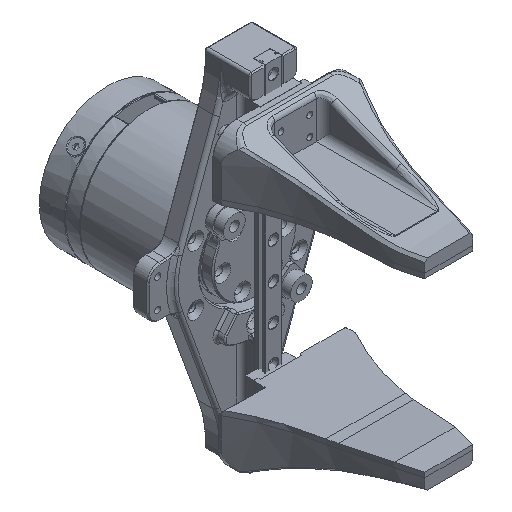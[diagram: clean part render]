
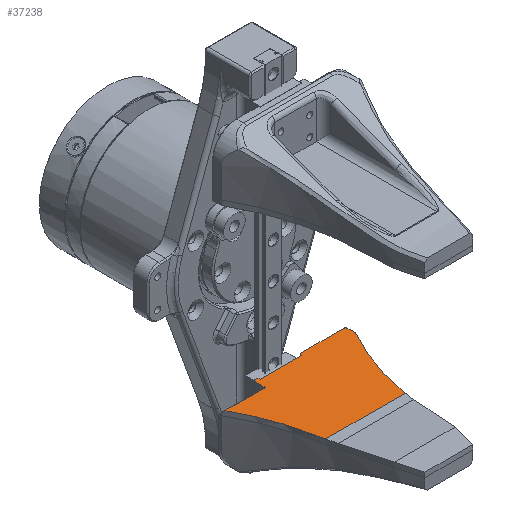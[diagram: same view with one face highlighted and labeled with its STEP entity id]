
A CAD part, isometric view. The second image highlights one B-rep face of the part: STEP entity #37238.
In plain terms, the highlighted planar face has unit normal (0, 0, 1) as drawn and (-1, 0, 0) by its records, which use the part's own axes.
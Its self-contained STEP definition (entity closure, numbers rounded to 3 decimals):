
#183 = CARTESIAN_POINT ( 'NONE',  ( -2., -9.15, 71. ) ) ;
#273 = LINE ( 'NONE', #34540, #21472 ) ;
#1364 = ORIENTED_EDGE ( 'NONE', *, *, #4253, .T. ) ;
#1388 = CARTESIAN_POINT ( 'NONE',  ( -2., 23.154, 57.32 ) ) ;
#1880 = VECTOR ( 'NONE', #13972, 1000. ) ;
#2148 = DIRECTION ( 'NONE',  ( 0., 0., 1. ) ) ;
#2785 = EDGE_CURVE ( 'NONE', #11156, #4643, #20518, .T. ) ;
#3078 = CARTESIAN_POINT ( 'NONE',  ( -2., -28., 34.718 ) ) ;
#3775 = EDGE_CURVE ( 'NONE', #12439, #9580, #21705, .T. ) ;
#3892 = CARTESIAN_POINT ( 'NONE',  ( -2., 18.881, 45.571 ) ) ;
#4253 = EDGE_CURVE ( 'NONE', #20118, #8627, #14377, .T. ) ;
#4412 = EDGE_CURVE ( 'NONE', #9580, #28087, #30825, .T. ) ;
#4533 = EDGE_CURVE ( 'NONE', #11377, #22294, #273, .T. ) ;
#4604 = DIRECTION ( 'NONE',  ( 0., 0., -1. ) ) ;
#4643 = VERTEX_POINT ( 'NONE', #37826 ) ;
#5258 = DIRECTION ( 'NONE',  ( 0., 0., -1. ) ) ;
#5429 = LINE ( 'NONE', #24242, #28455 ) ;
#5797 = LINE ( 'NONE', #31346, #6864 ) ;
#6681 = CARTESIAN_POINT ( 'NONE',  ( -2., -28., 66. ) ) ;
#6864 = VECTOR ( 'NONE', #18413, 1000. ) ;
#7486 = VECTOR ( 'NONE', #26068, 1000. ) ;
#7854 = ORIENTED_EDGE ( 'NONE', *, *, #16024, .T. ) ;
#8210 = VECTOR ( 'NONE', #33629, 1000. ) ;
#8560 = CARTESIAN_POINT ( 'NONE',  ( -2., 10.65, 71. ) ) ;
#8627 = VERTEX_POINT ( 'NONE', #11533 ) ;
#9161 = ORIENTED_EDGE ( 'NONE', *, *, #23197, .F. ) ;
#9580 = VERTEX_POINT ( 'NONE', #29975 ) ;
#10041 = CARTESIAN_POINT ( 'NONE',  ( -2., -9.15, 71. ) ) ;
#10168 = CARTESIAN_POINT ( 'NONE',  ( -2., 8.65, 34.718 ) ) ;
#11156 = VERTEX_POINT ( 'NONE', #12879 ) ;
#11175 = EDGE_LOOP ( 'NONE', ( #9161, #38297, #16143, #32000, #16943, #30136, #21953, #7854, #40336, #38020, #20771, #33390, #1364, #35215, #15149 ) ) ;
#11247 = DIRECTION ( 'NONE',  ( 0., 1., 0. ) ) ;
#11377 = VERTEX_POINT ( 'NONE', #31751 ) ;
#11426 = EDGE_CURVE ( 'NONE', #22277, #21422, #5797, .T. ) ;
#11533 = CARTESIAN_POINT ( 'NONE',  ( -2., 8.65, 70. ) ) ;
#11563 = CARTESIAN_POINT ( 'NONE',  ( -2., 9.216, 71.934 ) ) ;
#12359 = VERTEX_POINT ( 'NONE', #21043 ) ;
#12410 = CARTESIAN_POINT ( 'NONE',  ( -2., -16.557, 34.718 ) ) ;
#12439 = VERTEX_POINT ( 'NONE', #24335 ) ;
#12607 = CARTESIAN_POINT ( 'NONE',  ( -2., -8.65, 70. ) ) ;
#12879 = CARTESIAN_POINT ( 'NONE',  ( -2., 16.557, 34.718 ) ) ;
#13101 = DIRECTION ( 'NONE',  ( 0., -0.707, -0.707 ) ) ;
#13972 = DIRECTION ( 'NONE',  ( 0., 1., 0. ) ) ;
#14024 = CARTESIAN_POINT ( 'NONE',  ( -2., 21.61, 53.46 ) ) ;
#14377 = LINE ( 'NONE', #23875, #20144 ) ;
#14445 = AXIS2_PLACEMENT_3D ( 'NONE', #3078, #37737, #34646 ) ;
#14497 = CARTESIAN_POINT ( 'NONE',  ( -2., 8.65, 70.5 ) ) ;
#14768 = LINE ( 'NONE', #27536, #34701 ) ;
#15149 = ORIENTED_EDGE ( 'NONE', *, *, #11426, .T. ) ;
#15473 = VERTEX_POINT ( 'NONE', #38852 ) ;
#15783 = LINE ( 'NONE', #10168, #7486 ) ;
#16024 = EDGE_CURVE ( 'NONE', #15473, #22294, #40305, .T. ) ;
#16143 = ORIENTED_EDGE ( 'NONE', *, *, #4412, .T. ) ;
#16509 = CARTESIAN_POINT ( 'NONE',  ( -2., 26.078, 63.584 ) ) ;
#16661 = EDGE_CURVE ( 'NONE', #20154, #15473, #27537, .T. ) ;
#16943 = ORIENTED_EDGE ( 'NONE', *, *, #2785, .F. ) ;
#18413 = DIRECTION ( 'NONE',  ( 0., 0.707, 0.707 ) ) ;
#18540 = VECTOR ( 'NONE', #28803, 1000. ) ;
#19301 = DIRECTION ( 'NONE',  ( 0., 1., 0. ) ) ;
#19364 = EDGE_CURVE ( 'NONE', #20154, #11156, #31524, .T. ) ;
#20118 = VERTEX_POINT ( 'NONE', #12607 ) ;
#20144 = VECTOR ( 'NONE', #11247, 1000. ) ;
#20154 = VERTEX_POINT ( 'NONE', #12410 ) ;
#20518 = B_SPLINE_CURVE_WITH_KNOTS ( 'NONE', 3,
 ( #22917, #28847, #3892, #35455, #14024, #25781, #1388, #23121, #16509, #32362 ),
 .UNSPECIFIED., .F., .F.,
 ( 4, 2, 2, 2, 4 ),
 ( 0.071, 0.088, 0.092, 0.096, 0.105 ),
 .UNSPECIFIED. ) ;
#20771 = ORIENTED_EDGE ( 'NONE', *, *, #21467, .F. ) ;
#21043 = CARTESIAN_POINT ( 'NONE',  ( -2., -8.65, 70.5 ) ) ;
#21244 = CARTESIAN_POINT ( 'NONE',  ( -2., -22.74, 56.752 ) ) ;
#21422 = VERTEX_POINT ( 'NONE', #31900 ) ;
#21467 = EDGE_CURVE ( 'NONE', #12359, #37228, #32112, .T. ) ;
#21472 = VECTOR ( 'NONE', #13101, 1000. ) ;
#21705 = LINE ( 'NONE', #11563, #8210 ) ;
#21953 = ORIENTED_EDGE ( 'NONE', *, *, #16661, .T. ) ;
#22277 = VERTEX_POINT ( 'NONE', #14497 ) ;
#22294 = VERTEX_POINT ( 'NONE', #36524 ) ;
#22917 = CARTESIAN_POINT ( 'NONE',  ( -2., 16.557, 34.718 ) ) ;
#23121 = CARTESIAN_POINT ( 'NONE',  ( -2., 24.84, 61.112 ) ) ;
#23197 = EDGE_CURVE ( 'NONE', #12439, #21422, #5429, .T. ) ;
#23740 = CARTESIAN_POINT ( 'NONE',  ( -2., -17.586, 40.409 ) ) ;
#23875 = CARTESIAN_POINT ( 'NONE',  ( -2., 28., 70. ) ) ;
#24242 = CARTESIAN_POINT ( 'NONE',  ( -2., 0., 71. ) ) ;
#24335 = CARTESIAN_POINT ( 'NONE',  ( -2., 10.15, 71. ) ) ;
#24467 = DIRECTION ( 'NONE',  ( 0., 1., 0. ) ) ;
#25002 = PLANE ( 'NONE',  #14445 ) ;
#25609 = EDGE_CURVE ( 'NONE', #22277, #8627, #15783, .T. ) ;
#25781 = CARTESIAN_POINT ( 'NONE',  ( -2., 22.621, 56.043 ) ) ;
#26068 = DIRECTION ( 'NONE',  ( 0., 0., -1. ) ) ;
#27536 = CARTESIAN_POINT ( 'NONE',  ( -2., 0., 71. ) ) ;
#27537 = B_SPLINE_CURVE_WITH_KNOTS ( 'NONE', 3,
 ( #36064, #23740, #30486, #21244, #36466, #33158 ),
 .UNSPECIFIED., .F., .F.,
 ( 4, 2, 4 ),
 ( 0., 0.017, 0.034 ),
 .UNSPECIFIED. ) ;
#27945 = CARTESIAN_POINT ( 'NONE',  ( -2., -28., 70. ) ) ;
#27995 = VECTOR ( 'NONE', #19301, 1000. ) ;
#28087 = VERTEX_POINT ( 'NONE', #40195 ) ;
#28455 = VECTOR ( 'NONE', #33685, 1000. ) ;
#28803 = DIRECTION ( 'NONE',  ( 0., -0.707, 0.707 ) ) ;
#28847 = CARTESIAN_POINT ( 'NONE',  ( -2., 17.546, 40.188 ) ) ;
#29951 = LINE ( 'NONE', #36969, #30672 ) ;
#29975 = CARTESIAN_POINT ( 'NONE',  ( -2., 10.65, 70.5 ) ) ;
#30136 = ORIENTED_EDGE ( 'NONE', *, *, #19364, .F. ) ;
#30486 = CARTESIAN_POINT ( 'NONE',  ( -2., -18.985, 45.97 ) ) ;
#30672 = VECTOR ( 'NONE', #4604, 1000. ) ;
#30825 = LINE ( 'NONE', #8560, #31978 ) ;
#31165 = EDGE_CURVE ( 'NONE', #28087, #4643, #34337, .T. ) ;
#31346 = CARTESIAN_POINT ( 'NONE',  ( -2., -27.566, 34.284 ) ) ;
#31369 = EDGE_CURVE ( 'NONE', #12359, #20118, #29951, .T. ) ;
#31524 = LINE ( 'NONE', #40789, #1880 ) ;
#31542 = FACE_OUTER_BOUND ( 'NONE', #11175, .T. ) ;
#31751 = CARTESIAN_POINT ( 'NONE',  ( -2., -27.5, 71. ) ) ;
#31900 = CARTESIAN_POINT ( 'NONE',  ( -2., 9.15, 71. ) ) ;
#31978 = VECTOR ( 'NONE', #5258, 1000. ) ;
#32000 = ORIENTED_EDGE ( 'NONE', *, *, #31165, .T. ) ;
#32112 = LINE ( 'NONE', #10041, #18540 ) ;
#32362 = CARTESIAN_POINT ( 'NONE',  ( -2., 27.431, 66. ) ) ;
#33158 = CARTESIAN_POINT ( 'NONE',  ( -2., -28., 67. ) ) ;
#33390 = ORIENTED_EDGE ( 'NONE', *, *, #31369, .T. ) ;
#33629 = DIRECTION ( 'NONE',  ( 0., 0.707, -0.707 ) ) ;
#33685 = DIRECTION ( 'NONE',  ( 0., -1., 0. ) ) ;
#34337 = LINE ( 'NONE', #6681, #27995 ) ;
#34411 = EDGE_CURVE ( 'NONE', #11377, #37228, #14768, .T. ) ;
#34540 = CARTESIAN_POINT ( 'NONE',  ( -2., -27.5, 71. ) ) ;
#34646 = DIRECTION ( 'NONE',  ( 0., 0., 1. ) ) ;
#34701 = VECTOR ( 'NONE', #24467, 1000. ) ;
#35215 = ORIENTED_EDGE ( 'NONE', *, *, #25609, .F. ) ;
#35455 = CARTESIAN_POINT ( 'NONE',  ( -2., 21.132, 52.154 ) ) ;
#36064 = CARTESIAN_POINT ( 'NONE',  ( -2., -16.557, 34.718 ) ) ;
#36466 = CARTESIAN_POINT ( 'NONE',  ( -2., -25.097, 61.972 ) ) ;
#36524 = CARTESIAN_POINT ( 'NONE',  ( -2., -28., 70.5 ) ) ;
#36969 = CARTESIAN_POINT ( 'NONE',  ( -2., -8.65, 71. ) ) ;
#37228 = VERTEX_POINT ( 'NONE', #183 ) ;
#37238 = ADVANCED_FACE ( 'NONE', ( #31542 ), #25002, .T. ) ;
#37419 = VECTOR ( 'NONE', #2148, 1000. ) ;
#37737 = DIRECTION ( 'NONE',  ( -1., 0., 0. ) ) ;
#37826 = CARTESIAN_POINT ( 'NONE',  ( -2., 27.431, 66. ) ) ;
#38020 = ORIENTED_EDGE ( 'NONE', *, *, #34411, .T. ) ;
#38297 = ORIENTED_EDGE ( 'NONE', *, *, #3775, .T. ) ;
#38852 = CARTESIAN_POINT ( 'NONE',  ( -2., -28., 67. ) ) ;
#40195 = CARTESIAN_POINT ( 'NONE',  ( -2., 10.65, 66. ) ) ;
#40305 = LINE ( 'NONE', #27945, #37419 ) ;
#40336 = ORIENTED_EDGE ( 'NONE', *, *, #4533, .F. ) ;
#40789 = CARTESIAN_POINT ( 'NONE',  ( -2., -28., 34.718 ) ) ;
